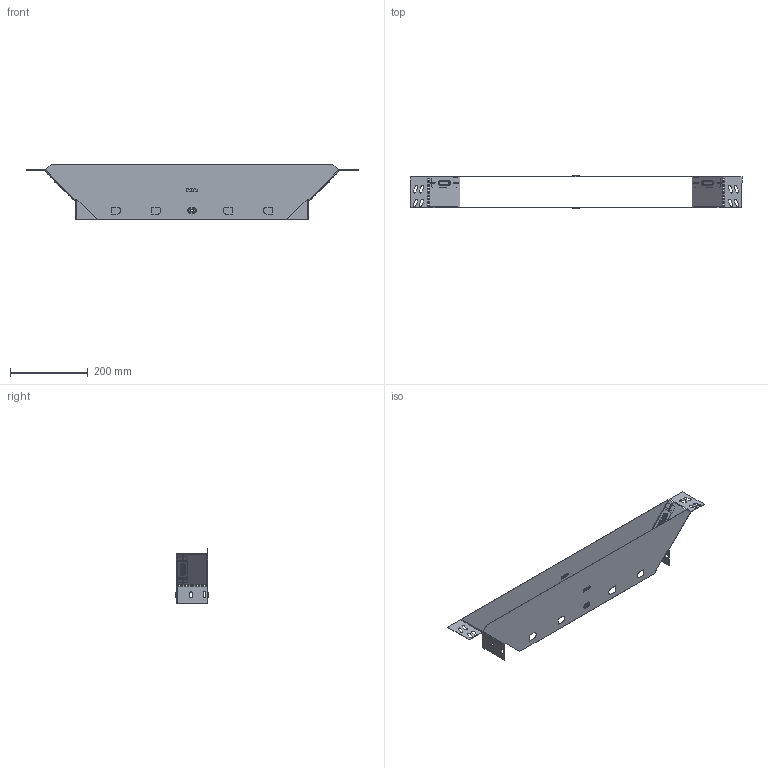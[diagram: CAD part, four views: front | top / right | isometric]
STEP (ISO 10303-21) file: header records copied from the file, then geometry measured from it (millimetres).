
FILE_DESCRIPTION (( 'STEP AP214' ), '1' );
FILE_NAME ('tn8060008_捘.STEP', '2019-06-10T08:01:49', ( '砐錪賧瘔蠈錪 Windows' ), ( '' ), 'SwSTEP 2.0', 'SolidWorks 2018', '' );
FILE_SCHEMA (( 'AUTOMOTIVE_DESIGN' ));
Length unit declared in the file: millimetre
Products named in the file (1): tn8060008_捘
Bounding box: 856.02 x 83.8 x 144 mm (x, y, z)
Volume: 168034 mm3; surface area: 424947.8 mm2
Topology: 2 solids, 2 shells, 666 faces, 1882 edges, 1196 vertices
Faces by surface type: plane 400, cylinder 200, torus 48, bspline 18
Entity records: 22389 total; most frequent: CARTESIAN_POINT 4703, ORIENTED_EDGE 3764, DIRECTION 3616, EDGE_CURVE 1882, LINE 1374, VECTOR 1374, VERTEX_POINT 1196, AXIS2_PLACEMENT_3D 1121
